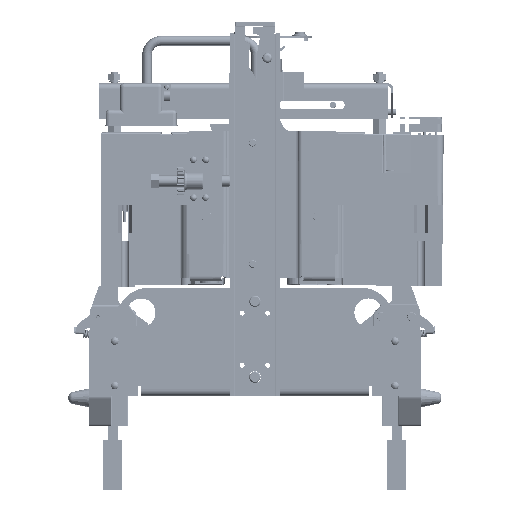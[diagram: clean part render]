
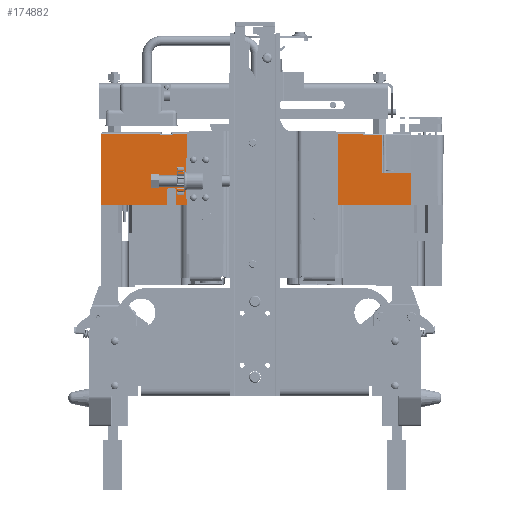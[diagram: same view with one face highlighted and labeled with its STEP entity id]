
A CAD part, left-side view. The second image highlights one B-rep face of the part: STEP entity #174882.
In plain terms, the highlighted planar face has unit normal (-1, 0, 0).
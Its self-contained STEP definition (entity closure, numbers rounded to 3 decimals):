
#157878 = EDGE_CURVE ( 'NONE', #158249, #157885, #873013, .T. ) ;
#157885 = VERTEX_POINT ( 'NONE', #872973 ) ;
#158249 = VERTEX_POINT ( 'NONE', #873790 ) ;
#158298 = VERTEX_POINT ( 'NONE', #874128 ) ;
#158465 = EDGE_CURVE ( 'NONE', #158597, #158298, #874265, .T. ) ;
#158597 = VERTEX_POINT ( 'NONE', #874732 ) ;
#158621 = EDGE_CURVE ( 'NONE', #158597, #158249, #874620, .T. ) ;
#158662 = EDGE_CURVE ( 'NONE', #158836, #159071, #874968, .T. ) ;
#158706 = VERTEX_POINT ( 'NONE', #874854 ) ;
#158734 = EDGE_CURVE ( 'NONE', #158298, #158706, #875250, .T. ) ;
#158836 = VERTEX_POINT ( 'NONE', #875352 ) ;
#158853 = EDGE_CURVE ( 'NONE', #158706, #158836, #875309, .T. ) ;
#158890 = VERTEX_POINT ( 'NONE', #875545 ) ;
#158915 = EDGE_CURVE ( 'NONE', #159071, #158890, #875808, .T. ) ;
#159071 = VERTEX_POINT ( 'NONE', #876301 ) ;
#159159 = VERTEX_POINT ( 'NONE', #876355 ) ;
#159181 = EDGE_CURVE ( 'NONE', #158890, #159159, #876572, .T. ) ;
#174361 = EDGE_CURVE ( 'NONE', #174366, #157885, #517295, .T. ) ;
#174366 = VERTEX_POINT ( 'NONE', #517279 ) ;
#174521 = EDGE_CURVE ( 'NONE', #174931, #174527, #517351, .T. ) ;
#174527 = VERTEX_POINT ( 'NONE', #517336 ) ;
#174559 = ORIENTED_EDGE ( 'NONE', *, *, #174569, .F. ) ;
#174569 = EDGE_CURVE ( 'NONE', #174366, #174527, #517664, .T. ) ;
#174757 = ORIENTED_EDGE ( 'NONE', *, *, #158915, .T. ) ;
#174784 = ORIENTED_EDGE ( 'NONE', *, *, #159181, .T. ) ;
#174882 = ADVANCED_FACE ( 'NONE', ( #518212 ), #518208, .F. ) ;
#174890 = EDGE_LOOP ( 'NONE', ( #174916, #174962, #174559, #175077, #175103, #175111, #175126, #175147, #175181, #175201, #174757, #174784 ) ) ;
#174916 = ORIENTED_EDGE ( 'NONE', *, *, #174927, .T. ) ;
#174927 = EDGE_CURVE ( 'NONE', #159159, #174931, #518082, .T. ) ;
#174931 = VERTEX_POINT ( 'NONE', #518498 ) ;
#174962 = ORIENTED_EDGE ( 'NONE', *, *, #174521, .T. ) ;
#175077 = ORIENTED_EDGE ( 'NONE', *, *, #174361, .T. ) ;
#175103 = ORIENTED_EDGE ( 'NONE', *, *, #157878, .F. ) ;
#175111 = ORIENTED_EDGE ( 'NONE', *, *, #158621, .F. ) ;
#175126 = ORIENTED_EDGE ( 'NONE', *, *, #158465, .T. ) ;
#175147 = ORIENTED_EDGE ( 'NONE', *, *, #158734, .T. ) ;
#175181 = ORIENTED_EDGE ( 'NONE', *, *, #158853, .T. ) ;
#175201 = ORIENTED_EDGE ( 'NONE', *, *, #158662, .T. ) ;
#517279 = CARTESIAN_POINT ( 'NONE',  ( -125.922, 529.613, 191.133 ) ) ;
#517285 = DIRECTION ( 'NONE',  ( 0., -1., 0. ) ) ;
#517289 = VECTOR ( 'NONE', #517285, 1000. ) ;
#517292 = CARTESIAN_POINT ( 'NONE',  ( -125.922, 527.913, 191.133 ) ) ;
#517295 = LINE ( 'NONE', #517292, #517289 ) ;
#517336 = CARTESIAN_POINT ( 'NONE',  ( -125.922, 529.613, 265.983 ) ) ;
#517341 = DIRECTION ( 'NONE',  ( 0., 1., 0. ) ) ;
#517346 = VECTOR ( 'NONE', #517341, 1000. ) ;
#517349 = CARTESIAN_POINT ( 'NONE',  ( -125.922, 529.613, 265.983 ) ) ;
#517351 = LINE ( 'NONE', #517349, #517346 ) ;
#517655 = DIRECTION ( 'NONE',  ( 0., 0., 1. ) ) ;
#517656 = VECTOR ( 'NONE', #517655, 1000. ) ;
#517660 = CARTESIAN_POINT ( 'NONE',  ( -125.922, 529.613, 191.133 ) ) ;
#517664 = LINE ( 'NONE', #517660, #517656 ) ;
#518080 = CARTESIAN_POINT ( 'NONE',  ( -125.922, 467.263, 267.983 ) ) ;
#518082 = LINE ( 'NONE', #518080, #518506 ) ;
#518181 = DIRECTION ( 'NONE',  ( 0., 1., 0. ) ) ;
#518186 = DIRECTION ( 'NONE',  ( 1., 0., 0. ) ) ;
#518192 = CARTESIAN_POINT ( 'NONE',  ( -125.922, 527.913, 267.983 ) ) ;
#518195 = AXIS2_PLACEMENT_3D ( 'NONE', #518192, #518186, #518181 ) ;
#518208 = PLANE ( 'NONE',  #518195 ) ;
#518212 = FACE_OUTER_BOUND ( 'NONE', #174890, .T. ) ;
#518498 = CARTESIAN_POINT ( 'NONE',  ( -125.922, 467.263, 265.983 ) ) ;
#518504 = DIRECTION ( 'NONE',  ( 0., 0., 1. ) ) ;
#518506 = VECTOR ( 'NONE', #518504, 1000. ) ;
#872973 = CARTESIAN_POINT ( 'NONE',  ( -125.922, 202.198, 191.133 ) ) ;
#873004 = DIRECTION ( 'NONE',  ( 0., 0., -1. ) ) ;
#873008 = VECTOR ( 'NONE', #873004, 1000. ) ;
#873011 = CARTESIAN_POINT ( 'NONE',  ( -125.922, 202.198, 225.483 ) ) ;
#873013 = LINE ( 'NONE', #873011, #873008 ) ;
#873790 = CARTESIAN_POINT ( 'NONE',  ( -125.922, 202.198, 225.483 ) ) ;
#874128 = CARTESIAN_POINT ( 'NONE',  ( -125.922, 232.899, 264.783 ) ) ;
#874258 = DIRECTION ( 'NONE',  ( 0., 0.009, 1. ) ) ;
#874260 = VECTOR ( 'NONE', #874258, 1000. ) ;
#874263 = CARTESIAN_POINT ( 'NONE',  ( -125.922, 232.949, 270.557 ) ) ;
#874265 = LINE ( 'NONE', #874263, #874260 ) ;
#874618 = CARTESIAN_POINT ( 'NONE',  ( -125.922, 203.198, 225.483 ) ) ;
#874620 = LINE ( 'NONE', #874618, #875034 ) ;
#874732 = CARTESIAN_POINT ( 'NONE',  ( -125.922, 232.556, 225.483 ) ) ;
#874854 = CARTESIAN_POINT ( 'NONE',  ( -125.922, 252.198, 264.783 ) ) ;
#874960 = DIRECTION ( 'NONE',  ( 0., 1., 0. ) ) ;
#874961 = VECTOR ( 'NONE', #874960, 1000. ) ;
#874965 = CARTESIAN_POINT ( 'NONE',  ( -125.922, 454.888, 265.983 ) ) ;
#874968 = LINE ( 'NONE', #874965, #874961 ) ;
#875029 = DIRECTION ( 'NONE',  ( 0., -1., 0. ) ) ;
#875034 = VECTOR ( 'NONE', #875029, 1000. ) ;
#875241 = DIRECTION ( 'NONE',  ( 0., 1., 0. ) ) ;
#875244 = VECTOR ( 'NONE', #875241, 1000. ) ;
#875247 = CARTESIAN_POINT ( 'NONE',  ( -125.922, 527.913, 264.783 ) ) ;
#875250 = LINE ( 'NONE', #875247, #875244 ) ;
#875285 = DIRECTION ( 'NONE',  ( 0., 0., 1. ) ) ;
#875288 = VECTOR ( 'NONE', #875285, 1000. ) ;
#875295 = CARTESIAN_POINT ( 'NONE',  ( -125.922, 252.198, 267.983 ) ) ;
#875309 = LINE ( 'NONE', #875295, #875288 ) ;
#875352 = CARTESIAN_POINT ( 'NONE',  ( -125.922, 252.198, 265.983 ) ) ;
#875545 = CARTESIAN_POINT ( 'NONE',  ( -125.922, 452.888, 264.783 ) ) ;
#875798 = DIRECTION ( 'NONE',  ( 0., 0., -1. ) ) ;
#875800 = VECTOR ( 'NONE', #875798, 1000. ) ;
#875804 = CARTESIAN_POINT ( 'NONE',  ( -125.922, 452.888, 267.983 ) ) ;
#875808 = LINE ( 'NONE', #875804, #875800 ) ;
#876301 = CARTESIAN_POINT ( 'NONE',  ( -125.922, 452.888, 265.983 ) ) ;
#876355 = CARTESIAN_POINT ( 'NONE',  ( -125.922, 467.263, 264.783 ) ) ;
#876563 = DIRECTION ( 'NONE',  ( 0., 1., 0. ) ) ;
#876567 = VECTOR ( 'NONE', #876563, 1000. ) ;
#876570 = CARTESIAN_POINT ( 'NONE',  ( -125.922, 527.913, 264.783 ) ) ;
#876572 = LINE ( 'NONE', #876570, #876567 ) ;
